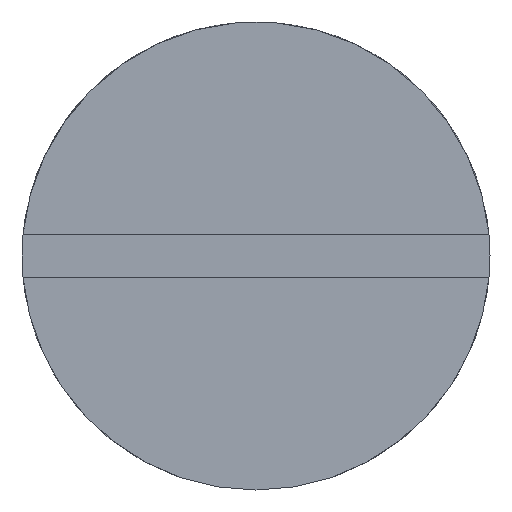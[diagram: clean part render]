
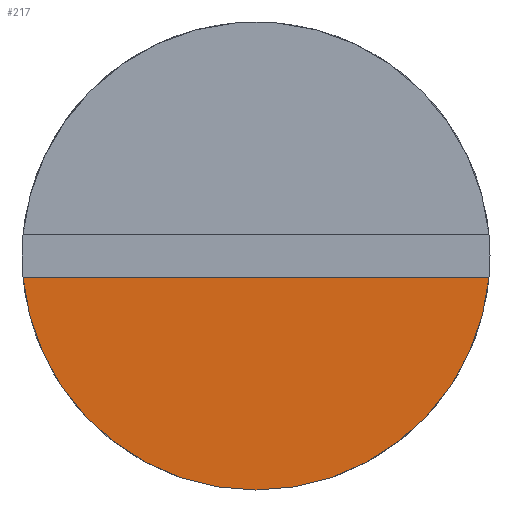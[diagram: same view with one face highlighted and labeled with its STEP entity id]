
A CAD part, left-side view. The second image highlights one B-rep face of the part: STEP entity #217.
In plain terms, the highlighted planar face has unit normal (-1, 0, 0).
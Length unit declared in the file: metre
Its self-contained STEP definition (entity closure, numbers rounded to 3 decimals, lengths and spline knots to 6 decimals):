
#33=PLANE('',#249);
#45=LINE('',#1948,#55);
#55=VECTOR('',#297,1.);
#104=ORIENTED_EDGE('',*,*,#116,.F.);
#105=ORIENTED_EDGE('',*,*,#142,.T.);
#116=EDGE_CURVE('',#145,#146,#164,.T.);
#142=EDGE_CURVE('',#145,#146,#45,.T.);
#145=VERTEX_POINT('',#308);
#146=VERTEX_POINT('',#310);
#164=CIRCLE('',#235,0.0075);
#184=EDGE_LOOP('',(#104,#105));
#201=FACE_BOUND('',#184,.T.);
#217=ADVANCED_FACE('',(#201),#33,.F.);
#235=AXIS2_PLACEMENT_3D('',#309,#259,#260);
#249=AXIS2_PLACEMENT_3D('',#1947,#295,#296);
#259=DIRECTION('',(1.,0.,0.));
#260=DIRECTION('',(0.,0.,-1.));
#295=DIRECTION('',(1.,0.,0.));
#296=DIRECTION('',(0.,1.,0.));
#297=DIRECTION('',(0.,1.,0.));
#308=CARTESIAN_POINT('',(-0.016,-0.037492,-0.0087));
#309=CARTESIAN_POINT('',(-0.016,-0.030024,-0.008));
#310=CARTESIAN_POINT('',(-0.016,-0.022557,-0.0087));
#1947=CARTESIAN_POINT('',(-0.016,-0.068997,-0.008));
#1948=CARTESIAN_POINT('',(-0.016,-0.030024,-0.0087));
